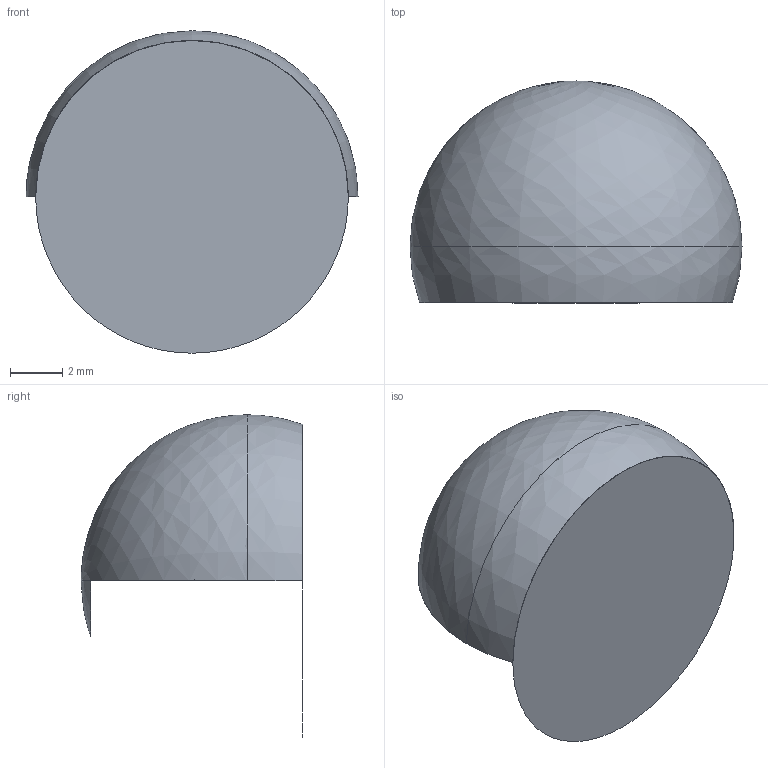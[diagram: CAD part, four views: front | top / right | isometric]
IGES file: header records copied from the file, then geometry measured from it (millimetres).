
Start section: SolidWorks IGES file using analytic representation for surfaces
Global section: file name: D:\Solid_parts\MECHeDESIGN\Bal-Tec\Catalog 105-A\Distribution\IGES\500-TB.IGS; native system: SolidWorks 2005 by SolidWorks Corporation; preprocessor: SolidWorks 2005 by SolidWorks Corporation; author: rvillegas; date: 061205.185448; units: inch
Bounding box: 12.7 x 8.48 x 12.33 mm (x, y, z)
Surface area: 415.8 mm2 (no closed solid volume)
Topology: 0 solids, 0 shells, 3 faces, 40 edges, 39 vertices
Faces by surface type: revolution 2, bspline 1
